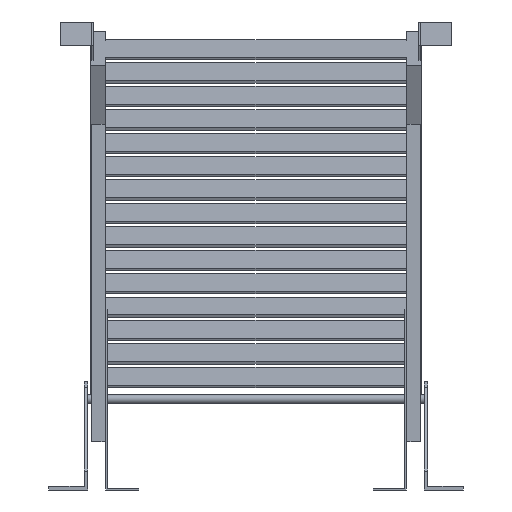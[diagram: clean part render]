
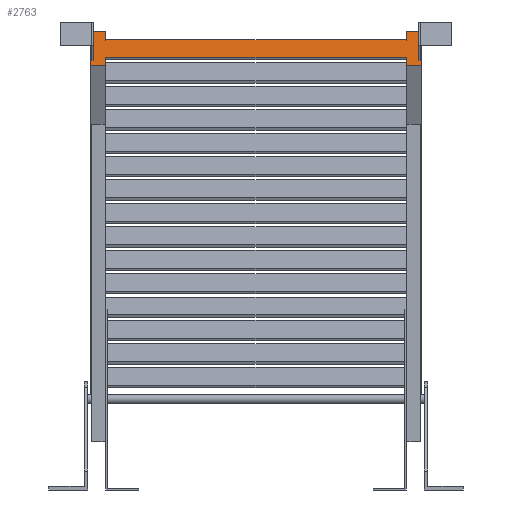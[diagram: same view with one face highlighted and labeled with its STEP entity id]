
A CAD part, front view. The second image highlights one B-rep face of the part: STEP entity #2763.
In plain terms, the highlighted planar face has unit normal (0, -0.99, 0.139).
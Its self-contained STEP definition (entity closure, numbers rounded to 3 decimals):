
#1807=DIRECTION('',(0.,0.139,0.99));
#1808=VECTOR('',#1807,13.5);
#1809=CARTESIAN_POINT('',(-250.,-3782.,749.835));
#1810=LINE('',#1809,#1808);
#1811=DIRECTION('',(0.,-0.139,-0.99));
#1812=VECTOR('',#1811,13.5);
#1813=CARTESIAN_POINT('',(250.,-3780.121,763.204));
#1814=LINE('',#1813,#1812);
#1815=DIRECTION('',(-1.,0.,0.));
#1816=VECTOR('',#1815,25.);
#1817=CARTESIAN_POINT('',(275.,-3780.121,763.204));
#1818=LINE('',#1817,#1816);
#1819=DIRECTION('',(0.,0.139,0.99));
#1820=VECTOR('',#1819,57.);
#1821=CARTESIAN_POINT('',(275.,-3788.054,706.758));
#1822=LINE('',#1821,#1820);
#1823=DIRECTION('',(1.,0.,0.));
#1824=VECTOR('',#1823,25.);
#1825=CARTESIAN_POINT('',(250.,-3788.054,706.758));
#1826=LINE('',#1825,#1824);
#1827=DIRECTION('',(0.,-0.139,-0.99));
#1828=VECTOR('',#1827,13.5);
#1829=CARTESIAN_POINT('',(250.,-3786.175,720.127));
#1830=LINE('',#1829,#1828);
#1831=DIRECTION('',(0.,0.139,0.99));
#1832=VECTOR('',#1831,13.5);
#1833=CARTESIAN_POINT('',(-250.,-3788.054,706.758));
#1834=LINE('',#1833,#1832);
#1835=DIRECTION('',(1.,0.,0.));
#1836=VECTOR('',#1835,25.);
#1837=CARTESIAN_POINT('',(-275.,-3788.054,706.758));
#1838=LINE('',#1837,#1836);
#1839=DIRECTION('',(0.,-0.139,-0.99));
#1840=VECTOR('',#1839,57.);
#1841=CARTESIAN_POINT('',(-275.,-3780.121,763.204));
#1842=LINE('',#1841,#1840);
#1843=DIRECTION('',(-1.,0.,0.));
#1844=VECTOR('',#1843,25.);
#1845=CARTESIAN_POINT('',(-250.,-3780.121,763.204));
#1846=LINE('',#1845,#1844);
#1847=DIRECTION('',(1.,0.,0.));
#1848=VECTOR('',#1847,2.);
#1849=CARTESIAN_POINT('',(-273.,-3786.871,715.176));
#1850=LINE('',#1849,#1848);
#1851=DIRECTION('',(0.,0.139,0.99));
#1852=VECTOR('',#1851,40.);
#1853=CARTESIAN_POINT('',(-271.,-3786.871,715.176));
#1854=LINE('',#1853,#1852);
#1855=DIRECTION('',(1.,0.,0.));
#1856=VECTOR('',#1855,2.);
#1857=CARTESIAN_POINT('',(-273.,-3781.304,754.786));
#1858=LINE('',#1857,#1856);
#1859=DIRECTION('',(0.,0.139,0.99));
#1860=VECTOR('',#1859,40.);
#1861=CARTESIAN_POINT('',(-273.,-3786.871,715.176));
#1862=LINE('',#1861,#1860);
#1863=DIRECTION('',(1.,0.,0.));
#1864=VECTOR('',#1863,2.);
#1865=CARTESIAN_POINT('',(271.,-3786.871,715.176));
#1866=LINE('',#1865,#1864);
#1867=DIRECTION('',(0.,0.139,0.99));
#1868=VECTOR('',#1867,40.);
#1869=CARTESIAN_POINT('',(273.,-3786.871,715.176));
#1870=LINE('',#1869,#1868);
#1871=DIRECTION('',(1.,0.,0.));
#1872=VECTOR('',#1871,2.);
#1873=CARTESIAN_POINT('',(271.,-3781.304,754.786));
#1874=LINE('',#1873,#1872);
#1875=DIRECTION('',(0.,0.139,0.99));
#1876=VECTOR('',#1875,40.);
#1877=CARTESIAN_POINT('',(271.,-3786.871,715.176));
#1878=LINE('',#1877,#1876);
#2355=DIRECTION('',(1.,0.,0.));
#2356=VECTOR('',#2355,500.);
#2357=CARTESIAN_POINT('',(-250.,-3782.,749.835));
#2358=LINE('',#2357,#2356);
#2359=DIRECTION('',(1.,0.,0.));
#2360=VECTOR('',#2359,500.);
#2361=CARTESIAN_POINT('',(-250.,-3786.175,720.127));
#2362=LINE('',#2361,#2360);
#2435=CARTESIAN_POINT('',(-250.,-3780.121,763.204));
#2436=CARTESIAN_POINT('',(-275.,-3780.121,763.204));
#2437=VERTEX_POINT('',#2435);
#2438=VERTEX_POINT('',#2436);
#2439=CARTESIAN_POINT('',(-275.,-3788.054,706.758));
#2440=CARTESIAN_POINT('',(-250.,-3788.054,706.758));
#2441=VERTEX_POINT('',#2439);
#2442=VERTEX_POINT('',#2440);
#2443=CARTESIAN_POINT('',(275.,-3788.054,706.758));
#2444=CARTESIAN_POINT('',(275.,-3780.121,763.204));
#2445=VERTEX_POINT('',#2443);
#2446=VERTEX_POINT('',#2444);
#2447=CARTESIAN_POINT('',(250.,-3788.054,706.758));
#2448=VERTEX_POINT('',#2447);
#2449=CARTESIAN_POINT('',(250.,-3780.121,763.204));
#2450=VERTEX_POINT('',#2449);
#2547=CARTESIAN_POINT('',(-250.,-3786.175,720.127));
#2549=VERTEX_POINT('',#2547);
#2551=CARTESIAN_POINT('',(-250.,-3782.,749.835));
#2553=VERTEX_POINT('',#2551);
#2555=CARTESIAN_POINT('',(250.,-3786.175,720.127));
#2557=VERTEX_POINT('',#2555);
#2559=CARTESIAN_POINT('',(250.,-3782.,749.835));
#2561=VERTEX_POINT('',#2559);
#2627=CARTESIAN_POINT('',(-273.,-3786.871,715.176));
#2628=CARTESIAN_POINT('',(-271.,-3786.871,715.176));
#2629=VERTEX_POINT('',#2627);
#2630=VERTEX_POINT('',#2628);
#2631=CARTESIAN_POINT('',(-273.,-3781.304,754.786));
#2632=CARTESIAN_POINT('',(-271.,-3781.304,754.786));
#2633=VERTEX_POINT('',#2631);
#2634=VERTEX_POINT('',#2632);
#2651=CARTESIAN_POINT('',(271.,-3786.871,715.176));
#2652=CARTESIAN_POINT('',(273.,-3786.871,715.176));
#2653=VERTEX_POINT('',#2651);
#2654=VERTEX_POINT('',#2652);
#2655=CARTESIAN_POINT('',(271.,-3781.304,754.786));
#2656=CARTESIAN_POINT('',(273.,-3781.304,754.786));
#2657=VERTEX_POINT('',#2655);
#2658=VERTEX_POINT('',#2656);
#2714=CARTESIAN_POINT('',(0.,-3812.087,535.754));
#2715=DIRECTION('',(0.,0.99,-0.139));
#2716=DIRECTION('',(1.,0.,0.));
#2717=AXIS2_PLACEMENT_3D('',#2714,#2715,#2716);
#2718=PLANE('',#2717);
#2720=ORIENTED_EDGE('',*,*,#2719,.F.);
#2722=ORIENTED_EDGE('',*,*,#2721,.T.);
#2724=ORIENTED_EDGE('',*,*,#2723,.F.);
#2726=ORIENTED_EDGE('',*,*,#2725,.F.);
#2728=ORIENTED_EDGE('',*,*,#2727,.F.);
#2730=ORIENTED_EDGE('',*,*,#2729,.F.);
#2732=ORIENTED_EDGE('',*,*,#2731,.F.);
#2734=ORIENTED_EDGE('',*,*,#2733,.F.);
#2736=ORIENTED_EDGE('',*,*,#2735,.F.);
#2738=ORIENTED_EDGE('',*,*,#2737,.F.);
#2740=ORIENTED_EDGE('',*,*,#2739,.F.);
#2742=ORIENTED_EDGE('',*,*,#2741,.F.);
#2743=EDGE_LOOP('',(#2720,#2722,#2724,#2726,#2728,#2730,#2732,#2734,#2736,#2738,
#2740,#2742));
#2744=FACE_OUTER_BOUND('',#2743,.F.);
#2745=ORIENTED_EDGE('',*,*,#2680,.T.);
#2747=ORIENTED_EDGE('',*,*,#2746,.T.);
#2749=ORIENTED_EDGE('',*,*,#2748,.F.);
#2751=ORIENTED_EDGE('',*,*,#2750,.F.);
#2752=EDGE_LOOP('',(#2745,#2747,#2749,#2751));
#2753=FACE_BOUND('',#2752,.F.);
#2754=ORIENTED_EDGE('',*,*,#2700,.T.);
#2756=ORIENTED_EDGE('',*,*,#2755,.T.);
#2758=ORIENTED_EDGE('',*,*,#2757,.F.);
#2760=ORIENTED_EDGE('',*,*,#2759,.F.);
#2761=EDGE_LOOP('',(#2754,#2756,#2758,#2760));
#2762=FACE_BOUND('',#2761,.F.);
#2680=EDGE_CURVE('',#2629,#2630,#1850,.T.);
#2700=EDGE_CURVE('',#2653,#2654,#1866,.T.);
#2719=EDGE_CURVE('',#2553,#2437,#1810,.T.);
#2721=EDGE_CURVE('',#2553,#2561,#2358,.T.);
#2723=EDGE_CURVE('',#2450,#2561,#1814,.T.);
#2725=EDGE_CURVE('',#2446,#2450,#1818,.T.);
#2727=EDGE_CURVE('',#2445,#2446,#1822,.T.);
#2729=EDGE_CURVE('',#2448,#2445,#1826,.T.);
#2731=EDGE_CURVE('',#2557,#2448,#1830,.T.);
#2733=EDGE_CURVE('',#2549,#2557,#2362,.T.);
#2735=EDGE_CURVE('',#2442,#2549,#1834,.T.);
#2737=EDGE_CURVE('',#2441,#2442,#1838,.T.);
#2739=EDGE_CURVE('',#2438,#2441,#1842,.T.);
#2741=EDGE_CURVE('',#2437,#2438,#1846,.T.);
#2746=EDGE_CURVE('',#2630,#2634,#1854,.T.);
#2748=EDGE_CURVE('',#2633,#2634,#1858,.T.);
#2750=EDGE_CURVE('',#2629,#2633,#1862,.T.);
#2755=EDGE_CURVE('',#2654,#2658,#1870,.T.);
#2757=EDGE_CURVE('',#2657,#2658,#1874,.T.);
#2759=EDGE_CURVE('',#2653,#2657,#1878,.T.);
#2763=ADVANCED_FACE('',(#2744,#2753,#2762),#2718,.F.);
